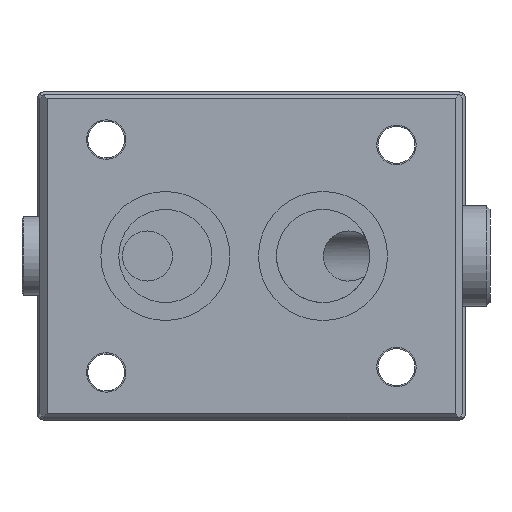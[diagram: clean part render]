
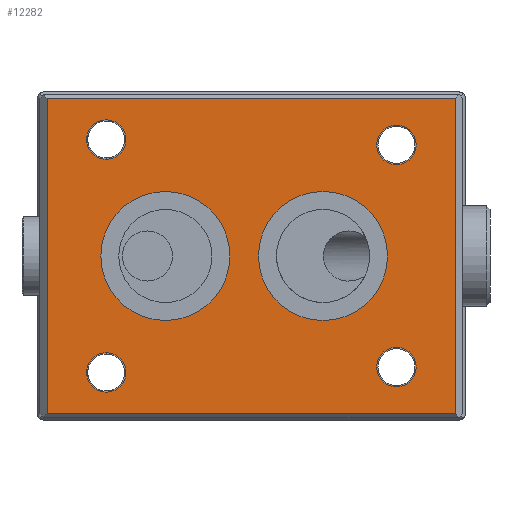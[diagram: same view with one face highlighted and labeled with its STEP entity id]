
A CAD part, left-side view. The second image highlights one B-rep face of the part: STEP entity #12282.
In plain terms, the highlighted planar face has unit normal (-1, 0, 0).
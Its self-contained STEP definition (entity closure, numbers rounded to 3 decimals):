
#246=LINE('',#19644,#1421);
#247=LINE('',#19647,#1422);
#248=LINE('',#19649,#1423);
#249=LINE('',#19651,#1424);
#1421=VECTOR('',#16123,1000.);
#1422=VECTOR('',#16124,1000.);
#1423=VECTOR('',#16125,1000.);
#1424=VECTOR('',#16126,1000.);
#2566=PLANE('',#14885);
#3253=CIRCLE('',#14886,9.);
#3254=CIRCLE('',#14887,9.);
#3255=CIRCLE('',#14888,2.75);
#3256=CIRCLE('',#14889,2.75);
#3257=CIRCLE('',#14890,2.75);
#3258=CIRCLE('',#14891,2.75);
#3707=ORIENTED_EDGE('',*,*,#7267,.T.);
#3708=ORIENTED_EDGE('',*,*,#7268,.T.);
#3709=ORIENTED_EDGE('',*,*,#7269,.T.);
#3710=ORIENTED_EDGE('',*,*,#7270,.T.);
#3711=ORIENTED_EDGE('',*,*,#7271,.T.);
#3712=ORIENTED_EDGE('',*,*,#7272,.T.);
#3713=ORIENTED_EDGE('',*,*,#7273,.T.);
#3714=ORIENTED_EDGE('',*,*,#7274,.T.);
#3715=ORIENTED_EDGE('',*,*,#7275,.T.);
#3716=ORIENTED_EDGE('',*,*,#7276,.T.);
#7267=EDGE_CURVE('',#9042,#9042,#3253,.T.);
#7268=EDGE_CURVE('',#9043,#9043,#3254,.T.);
#7269=EDGE_CURVE('',#9044,#9044,#3255,.T.);
#7270=EDGE_CURVE('',#9045,#9045,#3256,.T.);
#7271=EDGE_CURVE('',#9046,#9046,#3257,.T.);
#7272=EDGE_CURVE('',#9047,#9047,#3258,.T.);
#7273=EDGE_CURVE('',#9048,#9049,#246,.T.);
#7274=EDGE_CURVE('',#9049,#9050,#247,.T.);
#7275=EDGE_CURVE('',#9050,#9051,#248,.T.);
#7276=EDGE_CURVE('',#9051,#9048,#249,.T.);
#9042=VERTEX_POINT('',#19633);
#9043=VERTEX_POINT('',#19635);
#9044=VERTEX_POINT('',#19637);
#9045=VERTEX_POINT('',#19639);
#9046=VERTEX_POINT('',#19641);
#9047=VERTEX_POINT('',#19643);
#9048=VERTEX_POINT('',#19645);
#9049=VERTEX_POINT('',#19646);
#9050=VERTEX_POINT('',#19648);
#9051=VERTEX_POINT('',#19650);
#10261=EDGE_LOOP('',(#3707));
#10262=EDGE_LOOP('',(#3708));
#10263=EDGE_LOOP('',(#3709));
#10264=EDGE_LOOP('',(#3710));
#10265=EDGE_LOOP('',(#3711));
#10266=EDGE_LOOP('',(#3712));
#10267=EDGE_LOOP('',(#3713,#3714,#3715,#3716));
#11204=FACE_BOUND('',#10261,.T.);
#11205=FACE_BOUND('',#10262,.T.);
#11206=FACE_BOUND('',#10263,.T.);
#11207=FACE_BOUND('',#10264,.T.);
#11208=FACE_BOUND('',#10265,.T.);
#11209=FACE_BOUND('',#10266,.T.);
#11210=FACE_BOUND('',#10267,.T.);
#12282=ADVANCED_FACE('',(#11204,#11205,#11206,#11207,#11208,#11209,#11210),
#2566,.F.);
#14885=AXIS2_PLACEMENT_3D('',#19631,#16109,#16110);
#14886=AXIS2_PLACEMENT_3D('',#19632,#16111,#16112);
#14887=AXIS2_PLACEMENT_3D('',#19634,#16113,#16114);
#14888=AXIS2_PLACEMENT_3D('',#19636,#16115,#16116);
#14889=AXIS2_PLACEMENT_3D('',#19638,#16117,#16118);
#14890=AXIS2_PLACEMENT_3D('',#19640,#16119,#16120);
#14891=AXIS2_PLACEMENT_3D('',#19642,#16121,#16122);
#16109=DIRECTION('',(1.,0.,0.));
#16110=DIRECTION('',(0.,0.,-1.));
#16111=DIRECTION('',(1.,0.,0.));
#16112=DIRECTION('',(0.,0.,-1.));
#16113=DIRECTION('',(1.,0.,0.));
#16114=DIRECTION('',(0.,0.,-1.));
#16115=DIRECTION('',(1.,0.,0.));
#16116=DIRECTION('',(0.,0.,-1.));
#16117=DIRECTION('',(1.,0.,0.));
#16118=DIRECTION('',(0.,0.,-1.));
#16119=DIRECTION('',(1.,0.,0.));
#16120=DIRECTION('',(0.,0.,-1.));
#16121=DIRECTION('',(1.,0.,0.));
#16122=DIRECTION('',(0.,0.,-1.));
#16123=DIRECTION('',(0.,0.,-1.));
#16124=DIRECTION('',(0.,-1.,0.));
#16125=DIRECTION('',(0.,0.,1.));
#16126=DIRECTION('',(0.,1.,0.));
#19631=CARTESIAN_POINT('',(0.,0.,0.));
#19632=CARTESIAN_POINT('',(0.,-10.,0.));
#19633=CARTESIAN_POINT('',(0.,-10.,-9.));
#19634=CARTESIAN_POINT('',(0.,12.,0.));
#19635=CARTESIAN_POINT('',(0.,12.,-9.));
#19636=CARTESIAN_POINT('',(0.,-20.25,-15.5));
#19637=CARTESIAN_POINT('',(0.,-20.25,-18.25));
#19638=CARTESIAN_POINT('',(0.,20.25,-16.25));
#19639=CARTESIAN_POINT('',(0.,20.25,-19.));
#19640=CARTESIAN_POINT('',(0.,-20.25,15.5));
#19641=CARTESIAN_POINT('',(0.,-20.25,12.75));
#19642=CARTESIAN_POINT('',(0.,20.25,16.25));
#19643=CARTESIAN_POINT('',(0.,20.25,13.5));
#19644=CARTESIAN_POINT('',(0.,28.5,0.));
#19645=CARTESIAN_POINT('',(0.,28.5,22.));
#19646=CARTESIAN_POINT('',(0.,28.5,-22.));
#19647=CARTESIAN_POINT('',(0.,0.,-22.));
#19648=CARTESIAN_POINT('',(0.,-28.5,-22.));
#19649=CARTESIAN_POINT('',(0.,-28.5,0.));
#19650=CARTESIAN_POINT('',(0.,-28.5,22.));
#19651=CARTESIAN_POINT('',(0.,0.,22.));
